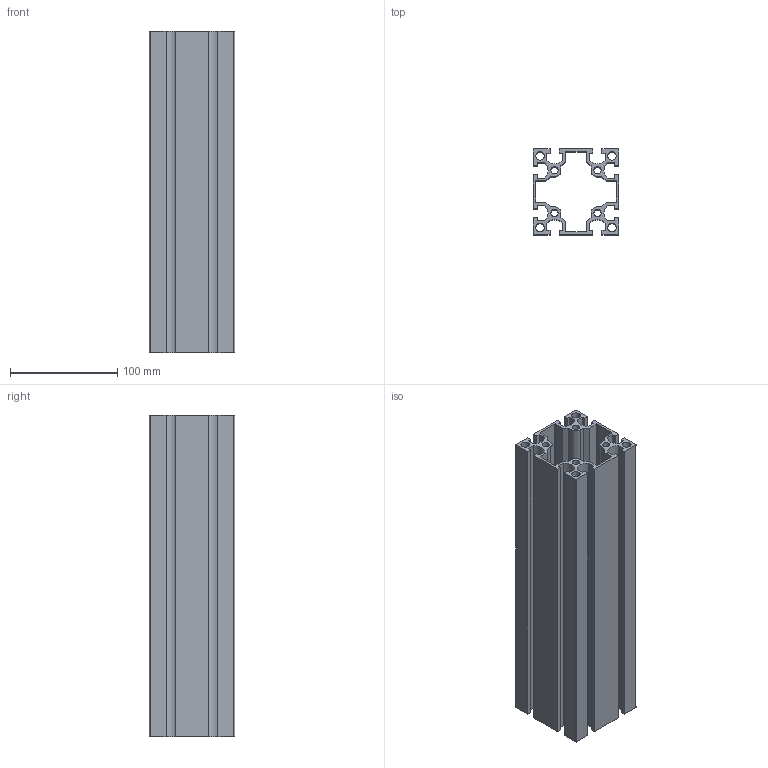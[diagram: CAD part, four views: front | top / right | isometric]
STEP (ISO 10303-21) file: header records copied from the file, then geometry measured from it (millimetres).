
FILE_DESCRIPTION (( 'STEP AP203' ), '1' );
FILE_NAME ('40-CG-8080-8.STEP', '2015-07-07T03:52:56', ( '' ), ( '' ), 'SwSTEP 2.0', 'SolidWorks 2013', '' );
FILE_SCHEMA (( 'CONFIG_CONTROL_DESIGN' ));
Length unit declared in the file: millimetre
Products named in the file (1): 40-CG-8080-8
Bounding box: 80 x 80 x 300 mm (x, y, z)
Volume: 491368.8 mm3; surface area: 320814.6 mm2
Topology: 1 solids, 1 shells, 132 faces, 390 edges, 260 vertices
Faces by surface type: plane 90, cylinder 42
Entity records: 4511 total; most frequent: CARTESIAN_POINT 783, ORIENTED_EDGE 780, DIRECTION 740, EDGE_CURVE 390, LINE 306, VECTOR 306, VERTEX_POINT 260, AXIS2_PLACEMENT_3D 217
